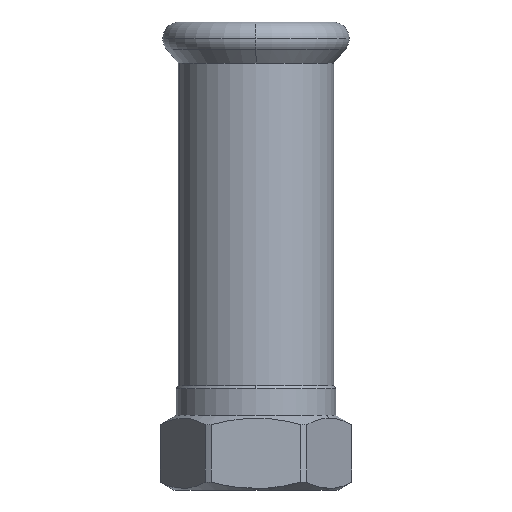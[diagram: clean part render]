
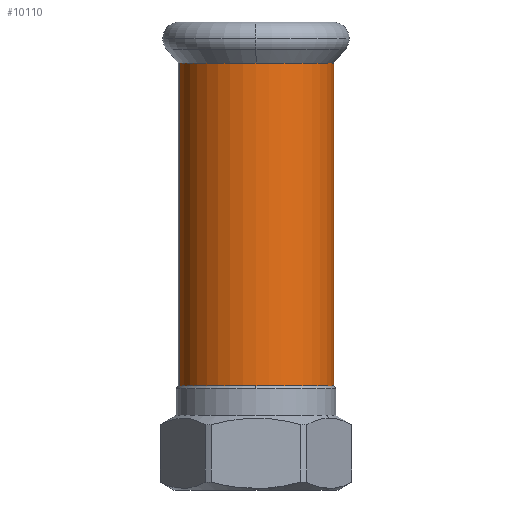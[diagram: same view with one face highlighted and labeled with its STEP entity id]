
A CAD part, left-side view. The second image highlights one B-rep face of the part: STEP entity #10110.
In plain terms, the highlighted cylindrical face has radius 15.65 mm (diameter 31.3 mm), a partial arc.
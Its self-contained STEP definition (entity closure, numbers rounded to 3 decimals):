
#9620=CARTESIAN_POINT('',(49.067,47.456,31.51));
#9630=DIRECTION('',(0.,0.,-1.));
#9640=DIRECTION('',(0.,-1.,0.));
#9650=AXIS2_PLACEMENT_3D('',#9620,#9630,#9640);
#9660=CYLINDRICAL_SURFACE('',#9650,15.65);
#9670=CARTESIAN_POINT('',(49.067,47.456,65.345));
#9680=DIRECTION('',(0.,0.,1.));
#9690=DIRECTION('',(-0.978,0.21,
0.));
#9700=AXIS2_PLACEMENT_3D('',#9670,#9680,#9690);
#9710=CIRCLE('',#9700,15.65);
#9720=CARTESIAN_POINT('',(33.765,50.736,
65.345));
#9730=VERTEX_POINT('',#9720);
#9740=CARTESIAN_POINT('',(49.067,31.806,65.345));
#9750=VERTEX_POINT('',#9740);
#9760=EDGE_CURVE('',#9730,#9750,#9710,.T.);
#9770=ORIENTED_EDGE('',*,*,#9760,.F.);
#9780=CARTESIAN_POINT('',(49.067,31.806,31.51));
#9790=DIRECTION('',(0.,0.,-1.));
#9800=VECTOR('',#9790,1.);
#9810=LINE('',#9780,#9800);
#9820=CARTESIAN_POINT('',(49.067,31.806,0.494));
#9830=VERTEX_POINT('',#9820);
#9840=EDGE_CURVE('',#9750,#9830,#9810,.T.);
#9850=ORIENTED_EDGE('',*,*,#9840,.F.);
#9860=CARTESIAN_POINT('',(49.067,47.456,0.494));
#9870=DIRECTION('',(0.,0.,-1.));
#9880=DIRECTION('',(-0.978,0.21,
0.));
#9890=AXIS2_PLACEMENT_3D('',#9860,#9870,#9880);
#9900=CIRCLE('',#9890,15.65);
#9910=CARTESIAN_POINT('',(33.765,50.736,
0.494));
#9920=VERTEX_POINT('',#9910);
#9930=EDGE_CURVE('',#9830,#9920,#9900,.T.);
#9940=ORIENTED_EDGE('',*,*,#9930,.F.);
#9950=CARTESIAN_POINT('',(49.067,63.106,0.494));
#9960=VERTEX_POINT('',#9950);
#9970=EDGE_CURVE('',#9920,#9960,#9900,.T.);
#9980=ORIENTED_EDGE('',*,*,#9970,.F.);
#9990=CARTESIAN_POINT('',(49.067,63.106,31.51));
#10000=DIRECTION('',(0.,0.,-1.));
#10010=VECTOR('',#10000,1.);
#10020=LINE('',#9990,#10010);
#10030=CARTESIAN_POINT('',(49.067,63.106,65.345));
#10040=VERTEX_POINT('',#10030);
#10050=EDGE_CURVE('',#10040,#9960,#10020,.T.);
#10060=ORIENTED_EDGE('',*,*,#10050,.T.);
#10070=EDGE_CURVE('',#10040,#9730,#9710,.T.);
#10080=ORIENTED_EDGE('',*,*,#10070,.F.);
#10090=EDGE_LOOP('',(#10080,#10060,#9980,#9940,#9850,#9770));
#10100=FACE_OUTER_BOUND('',#10090,.T.);
#10110=ADVANCED_FACE('',(#10100),#9660,.T.);
